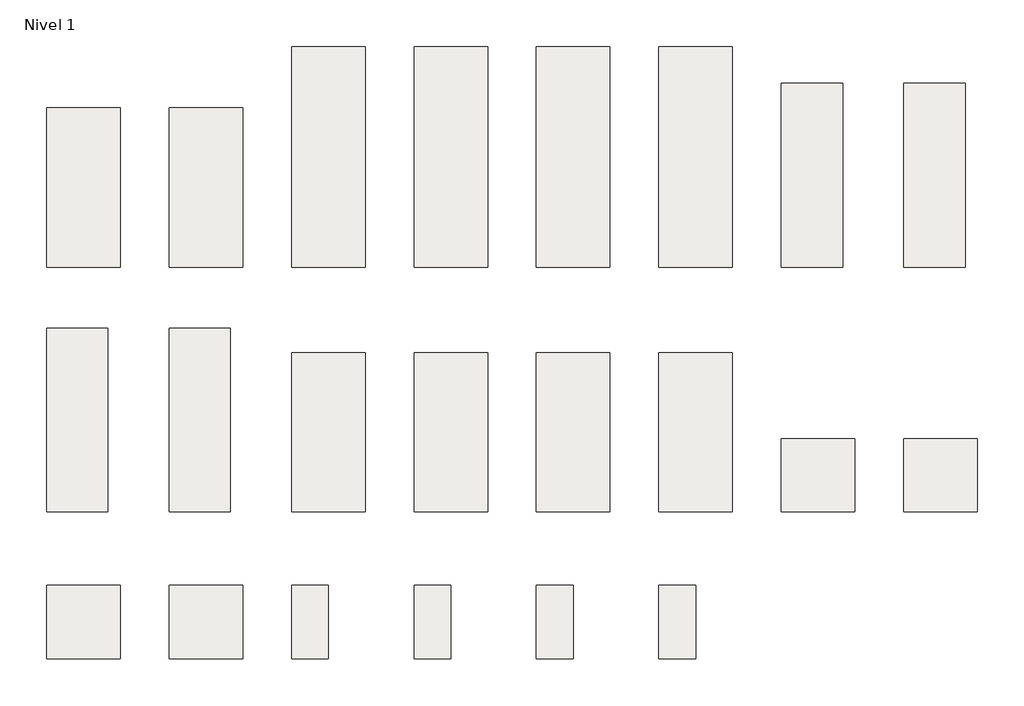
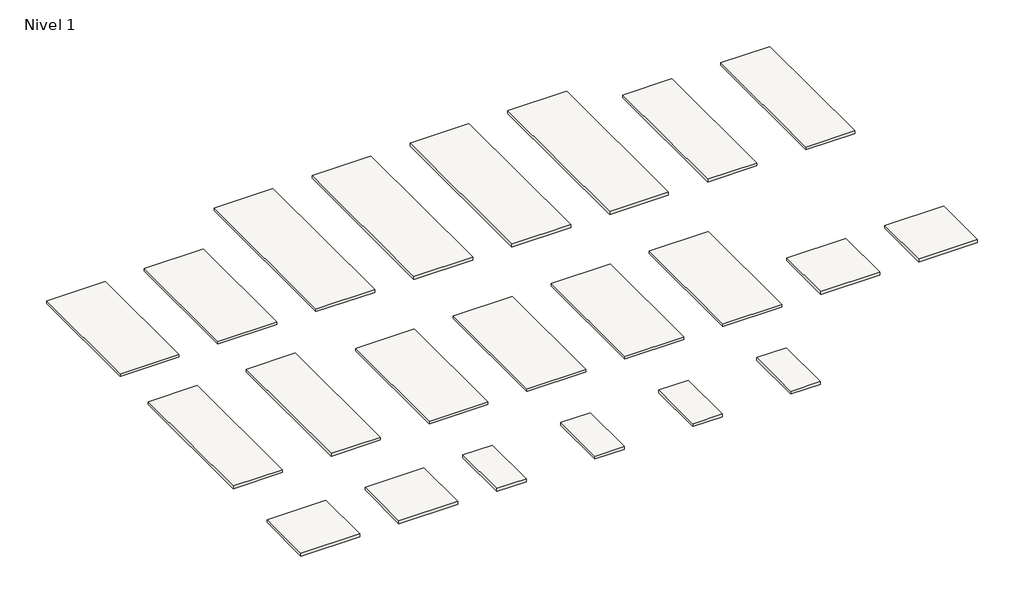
# One storey: 22 slabs.
"""IFC4 building model written with IfcOpenShell, lengths in millimetres."""

from ifc_helpers import new_model, si_unit, frame, origin, place, context, project, spatial, polyline, outline, extrude, element, save

model = new_model("IFC4")

# Units and contexts
model_context = context("Model", 3, world=origin())
ifc_project = project(units=[si_unit("LENGTHUNIT", "METRE", prefix="MILLI")], contexts=[model_context])

# Site, building, storey
site = spatial("IfcSite", under=ifc_project)
building = spatial("IfcBuilding", under=site)
storey = spatial("IfcBuildingStorey", under=building, Name="Nivel 1", Elevation=0.0)

# Slabs
placement = place(None, origin())
element("IfcSlab", 1, ObjectType="Arken Gris 120X260 5,6", at=placement, inside=storey, context=model_context, shape_type="SweptSolid", body=[
    extrude(outline(polyline([(0.0, 2600.0), (1200.0, 2600.0), (1200.0, 0.0), (0.0, 0.0), (0.0, 2600.0)])), frame((0.0, 0.0, -60.6), z_axis=(0.0, 0.0, 1.0), x_axis=(1.0, 0.0, 0.0)), (0.0, 0.0, 1.0), 60.6),
])
element("IfcSlab", 2, ObjectType="Orsay Gris 120X260 5,6", at=placement, inside=storey, context=model_context, shape_type="SweptSolid", body=[
    extrude(outline(polyline([(2000.0, 2600.0), (3200.0, 2600.0), (3200.0, 0.0), (2000.0, 0.0), (2000.0, 2600.0)])), frame((0.0, 0.0, -60.6), z_axis=(0.0, 0.0, 1.0), x_axis=(1.0, 0.0, 0.0)), (0.0, 0.0, 1.0), 60.6),
])
element("IfcSlab", 3, ObjectType="Moma Antracita 120X360 5,6", at=placement, inside=storey, context=model_context, shape_type="SweptSolid", body=[
    extrude(outline(polyline([(4000.0, 3600.0), (5200.0, 3600.0), (5200.0, 0.0), (4000.0, 0.0), (4000.0, 3600.0)])), frame((0.0, 0.0, -60.6), z_axis=(0.0, 0.0, 1.0), x_axis=(1.0, 0.0, 0.0)), (0.0, 0.0, 1.0), 60.6),
])
element("IfcSlab", 4, ObjectType="Moma Arena 120X360 5,6", at=placement, inside=storey, context=model_context, shape_type="SweptSolid", body=[
    extrude(outline(polyline([(6000.0, 3600.0), (7200.0, 3600.0), (7200.0, 0.0), (6000.0, 0.0), (6000.0, 3600.0)])), frame((0.0, 0.0, -60.6), z_axis=(0.0, 0.0, 1.0), x_axis=(1.0, 0.0, 0.0)), (0.0, 0.0, 1.0), 60.6),
])
element("IfcSlab", 5, ObjectType="Moma Gris 120X360 5,6", at=placement, inside=storey, context=model_context, shape_type="SweptSolid", body=[
    extrude(outline(polyline([(8000.0, 3600.0), (9200.0, 3600.0), (9200.0, 0.0), (8000.0, 0.0), (8000.0, 3600.0)])), frame((0.0, 0.0, -60.6), z_axis=(0.0, 0.0, 1.0), x_axis=(1.0, 0.0, 0.0)), (0.0, 0.0, 1.0), 60.6),
])
element("IfcSlab", 6, ObjectType="Moma Siena 120X360 5,6", at=placement, inside=storey, context=model_context, shape_type="SweptSolid", body=[
    extrude(outline(polyline([(10000.0, 3600.0), (11200.0, 3600.0), (11200.0, 0.0), (10000.0, 0.0), (10000.0, 3600.0)])), frame((0.0, 0.0, -60.6), z_axis=(0.0, 0.0, 1.0), x_axis=(1.0, 0.0, 0.0)), (0.0, 0.0, 1.0), 60.6),
])
element("IfcSlab", 7, ObjectType="Moma Antracita 100X300 3,5", at=placement, inside=storey, context=model_context, shape_type="SweptSolid", body=[
    extrude(outline(polyline([(12000.0, 3000.0), (13000.0, 3000.0), (13000.0, 0.0), (12000.0, 0.0), (12000.0, 3000.0)])), frame((0.0, 0.0, -58.5), z_axis=(0.0, 0.0, 1.0), x_axis=(1.0, 0.0, 0.0)), (0.0, 0.0, 1.0), 58.5),
])
element("IfcSlab", 8, ObjectType="Moma Arena 100X300 3,5", at=placement, inside=storey, context=model_context, shape_type="SweptSolid", body=[
    extrude(outline(polyline([(14000.0, 3000.0), (15000.0, 3000.0), (15000.0, 0.0), (14000.0, 0.0), (14000.0, 3000.0)])), frame((0.0, 0.0, -58.5), z_axis=(0.0, 0.0, 1.0), x_axis=(1.0, 0.0, 0.0)), (0.0, 0.0, 1.0), 58.5),
])
element("IfcSlab", 9, ObjectType="Moma Gris 100X300 3,5", at=placement, inside=storey, context=model_context, shape_type="SweptSolid", body=[
    extrude(outline(polyline([(0.0, -1000.0), (1000.0, -1000.0), (1000.0, -4000.0), (0.0, -4000.0), (0.0, -1000.0)])), frame((0.0, 0.0, -58.5), z_axis=(0.0, 0.0, 1.0), x_axis=(1.0, 0.0, 0.0)), (0.0, 0.0, 1.0), 58.5),
])
element("IfcSlab", 10, ObjectType="Moma Siena 100X300 3,5", at=placement, inside=storey, context=model_context, shape_type="SweptSolid", body=[
    extrude(outline(polyline([(2000.0, -1000.0), (3000.0, -1000.0), (3000.0, -4000.0), (2000.0, -4000.0), (2000.0, -1000.0)])), frame((0.0, 0.0, -58.5), z_axis=(0.0, 0.0, 1.0), x_axis=(1.0, 0.0, 0.0)), (0.0, 0.0, 1.0), 58.5),
])
element("IfcSlab", 11, ObjectType="Moma Antracita 120X260 3,5", at=placement, inside=storey, context=model_context, shape_type="SweptSolid", body=[
    extrude(outline(polyline([(4000.0, -1400.0), (5200.0, -1400.0), (5200.0, -4000.0), (4000.0, -4000.0), (4000.0, -1400.0)])), frame((0.0, 0.0, -58.5), z_axis=(0.0, 0.0, 1.0), x_axis=(1.0, 0.0, 0.0)), (0.0, 0.0, 1.0), 58.5),
])
element("IfcSlab", 12, ObjectType="Moma Arena 120X260 3,5", at=placement, inside=storey, context=model_context, shape_type="SweptSolid", body=[
    extrude(outline(polyline([(6000.0, -1400.0), (7200.0, -1400.0), (7200.0, -4000.0), (6000.0, -4000.0), (6000.0, -1400.0)])), frame((0.0, 0.0, -58.5), z_axis=(0.0, 0.0, 1.0), x_axis=(1.0, 0.0, 0.0)), (0.0, 0.0, 1.0), 58.5),
])
element("IfcSlab", 13, ObjectType="Moma Gris 120X260 3,5", at=placement, inside=storey, context=model_context, shape_type="SweptSolid", body=[
    extrude(outline(polyline([(8000.0, -1400.0), (9200.0, -1400.0), (9200.0, -4000.0), (8000.0, -4000.0), (8000.0, -1400.0)])), frame((0.0, 0.0, -58.5), z_axis=(0.0, 0.0, 1.0), x_axis=(1.0, 0.0, 0.0)), (0.0, 0.0, 1.0), 58.5),
])
element("IfcSlab", 14, ObjectType="Moma Siena 120X260 3,5", at=placement, inside=storey, context=model_context, shape_type="SweptSolid", body=[
    extrude(outline(polyline([(10000.0, -1400.0), (11200.0, -1400.0), (11200.0, -4000.0), (10000.0, -4000.0), (10000.0, -1400.0)])), frame((0.0, 0.0, -58.5), z_axis=(0.0, 0.0, 1.0), x_axis=(1.0, 0.0, 0.0)), (0.0, 0.0, 1.0), 58.5),
])
element("IfcSlab", 15, ObjectType="Moma Antracita 120X120 5,6", at=placement, inside=storey, context=model_context, shape_type="SweptSolid", body=[
    extrude(outline(polyline([(12000.0, -2800.0), (13200.0, -2800.0), (13200.0, -4000.0), (12000.0, -4000.0), (12000.0, -2800.0)])), frame((0.0, 0.0, -60.6), z_axis=(0.0, 0.0, 1.0), x_axis=(1.0, 0.0, 0.0)), (0.0, 0.0, 1.0), 60.6),
])
element("IfcSlab", 16, ObjectType="Moma Arena 120X120 5,6", at=placement, inside=storey, context=model_context, shape_type="SweptSolid", body=[
    extrude(outline(polyline([(14000.0, -2800.0), (15200.0, -2800.0), (15200.0, -4000.0), (14000.0, -4000.0), (14000.0, -2800.0)])), frame((0.0, 0.0, -60.6), z_axis=(0.0, 0.0, 1.0), x_axis=(1.0, 0.0, 0.0)), (0.0, 0.0, 1.0), 60.6),
])
element("IfcSlab", 17, ObjectType="Moma Gris 120X120 5,6", at=placement, inside=storey, context=model_context, shape_type="SweptSolid", body=[
    extrude(outline(polyline([(0.0, -5200.0), (1200.0, -5200.0), (1200.0, -6400.0), (0.0, -6400.0), (0.0, -5200.0)])), frame((0.0, 0.0, -60.6), z_axis=(0.0, 0.0, 1.0), x_axis=(1.0, 0.0, 0.0)), (0.0, 0.0, 1.0), 60.6),
])
element("IfcSlab", 18, ObjectType="Moma Siena 120X120 5,6", at=placement, inside=storey, context=model_context, shape_type="SweptSolid", body=[
    extrude(outline(polyline([(2000.0, -5200.0), (3200.0, -5200.0), (3200.0, -6400.0), (2000.0, -6400.0), (2000.0, -5200.0)])), frame((0.0, 0.0, -60.6), z_axis=(0.0, 0.0, 1.0), x_axis=(1.0, 0.0, 0.0)), (0.0, 0.0, 1.0), 60.6),
])
element("IfcSlab", 19, ObjectType="Moma Antracita 60X120 5,6", at=placement, inside=storey, context=model_context, shape_type="SweptSolid", body=[
    extrude(outline(polyline([(4000.0, -5200.0), (4600.0, -5200.0), (4600.0, -6400.0), (4000.0, -6400.0), (4000.0, -5200.0)])), frame((0.0, 0.0, -60.6), z_axis=(0.0, 0.0, 1.0), x_axis=(1.0, 0.0, 0.0)), (0.0, 0.0, 1.0), 60.6),
])
element("IfcSlab", 20, ObjectType="Moma Arena 60X120 5,6", at=placement, inside=storey, context=model_context, shape_type="SweptSolid", body=[
    extrude(outline(polyline([(6000.0, -5200.0), (6600.0, -5200.0), (6600.0, -6400.0), (6000.0, -6400.0), (6000.0, -5200.0)])), frame((0.0, 0.0, -60.6), z_axis=(0.0, 0.0, 1.0), x_axis=(1.0, 0.0, 0.0)), (0.0, 0.0, 1.0), 60.6),
])
element("IfcSlab", 21, ObjectType="Moma Gris 60X120 5,6", at=placement, inside=storey, context=model_context, shape_type="SweptSolid", body=[
    extrude(outline(polyline([(8000.0, -5200.0), (8600.0, -5200.0), (8600.0, -6400.0), (8000.0, -6400.0), (8000.0, -5200.0)])), frame((0.0, 0.0, -60.6), z_axis=(0.0, 0.0, 1.0), x_axis=(1.0, 0.0, 0.0)), (0.0, 0.0, 1.0), 60.6),
])
element("IfcSlab", 22, ObjectType="Moma Siena 60X120 5,6", at=placement, inside=storey, context=model_context, shape_type="SweptSolid", body=[
    extrude(outline(polyline([(10000.0, -5200.0), (10600.0, -5200.0), (10600.0, -6400.0), (10000.0, -6400.0), (10000.0, -5200.0)])), frame((0.0, 0.0, -60.6), z_axis=(0.0, 0.0, 1.0), x_axis=(1.0, 0.0, 0.0)), (0.0, 0.0, 1.0), 60.6),
])

save(model, "model.ifc")
